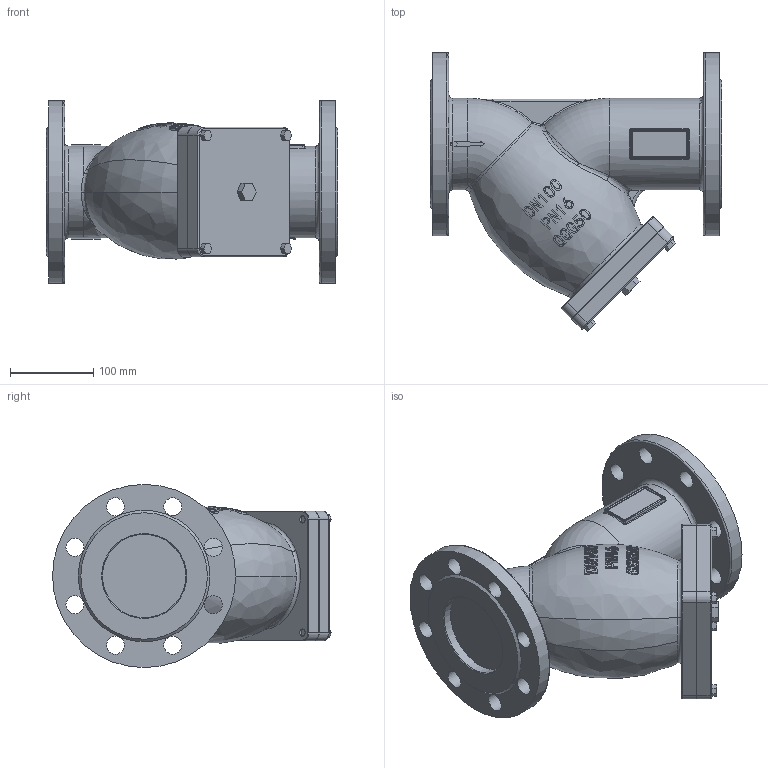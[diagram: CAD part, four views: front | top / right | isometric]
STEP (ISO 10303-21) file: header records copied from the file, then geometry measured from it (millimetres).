
FILE_DESCRIPTION (( 'STEP AP214' ), '1' );
FILE_NAME ('DN100.STEP', '2026-09-13T13:01:36', ( '' ), ( '' ), 'SwSTEP 2.0', 'SolidWorks 2024', '' );
FILE_SCHEMA (( 'AUTOMOTIVE_DESIGN' ));
Length unit declared in the file: millimetre
Products named in the file (1): DN100
Bounding box: 350 x 335.01 x 220 mm (x, y, z)
Volume: 7231914 mm3; surface area: 433274.2 mm2
Topology: 1 solids, 5 shells, 497 faces, 1234 edges, 784 vertices
Faces by surface type: bspline 197, plane 184, cylinder 83, torus 29, cone 4
Full cylindrical faces by diameter (mm): 9 x4, 10 x4, 21.58 x16, 100 x2, 110 x2, 114 x1, 220 x2
Entity records: 50426 total; most frequent: CARTESIAN_POINT 35626, ORIENTED_EDGE 2322, DIRECTION 1298, EDGE_CURVE 1161, VERTEX_POINT 774, EDGE_LOOP 637, B_SPLINE_CURVE_WITH_KNOTS 561, FACE_OUTER_BOUND 543
